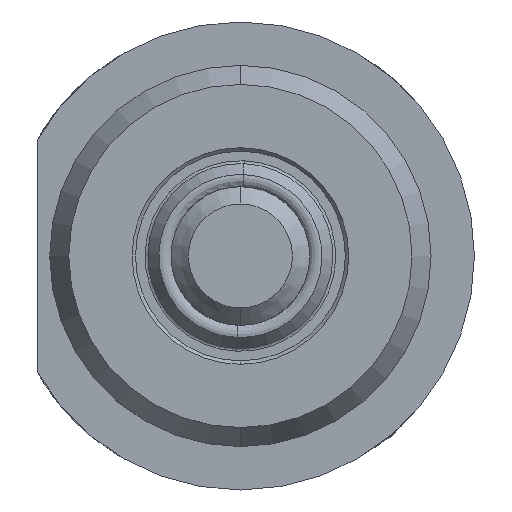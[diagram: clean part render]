
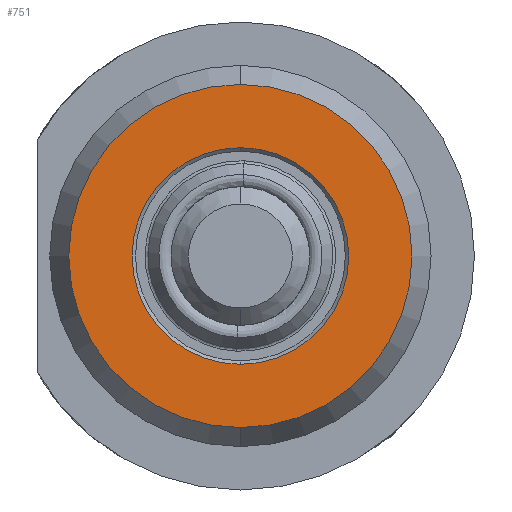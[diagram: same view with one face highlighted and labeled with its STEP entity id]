
A CAD part, left-side view. The second image highlights one B-rep face of the part: STEP entity #751.
In plain terms, the highlighted planar face has unit normal (-1, 0, 0).
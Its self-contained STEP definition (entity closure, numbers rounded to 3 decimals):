
#140 = AXIS2_PLACEMENT_3D ( 'NONE', #5105, #5110, #5111 ) ;
#751 = ADVANCED_FACE ( 'NONE', ( #4489, #4485 ), #5108, .T. ) ;
#1507 = EDGE_CURVE ( 'NONE', #5016, #5012, #6940, .T. ) ;
#1515 = EDGE_CURVE ( 'NONE', #5022, #5019, #6956, .T. ) ;
#1532 = EDGE_CURVE ( 'NONE', #5019, #5022, #6979, .T. ) ;
#1533 = EDGE_CURVE ( 'NONE', #5012, #5016, #6980, .T. ) ;
#2226 = ORIENTED_EDGE ( 'NONE', *, *, #1515, .T. ) ;
#2227 = ORIENTED_EDGE ( 'NONE', *, *, #1532, .T. ) ;
#2228 = ORIENTED_EDGE ( 'NONE', *, *, #1507, .F. ) ;
#2229 = ORIENTED_EDGE ( 'NONE', *, *, #1533, .F. ) ;
#2856 = CARTESIAN_POINT ( 'NONE',  ( 0., 0., 9.9 ) ) ;
#2860 = CARTESIAN_POINT ( 'NONE',  ( 0., 0., -9.9 ) ) ;
#2863 = CARTESIAN_POINT ( 'NONE',  ( 0., 0., -6.25 ) ) ;
#2866 = CARTESIAN_POINT ( 'NONE',  ( 0., 0., 6.25 ) ) ;
#3890 = AXIS2_PLACEMENT_3D ( 'NONE', #5950, #5951, #5952 ) ;
#3893 = AXIS2_PLACEMENT_3D ( 'NONE', #5969, #5970, #5971 ) ;
#3907 = AXIS2_PLACEMENT_3D ( 'NONE', #6015, #6016, #6017 ) ;
#3908 = AXIS2_PLACEMENT_3D ( 'NONE', #6018, #6019, #6020 ) ;
#4485 = FACE_OUTER_BOUND ( 'NONE', #7813, .T. ) ;
#4489 = FACE_BOUND ( 'NONE', #7811, .T. ) ;
#5012 = VERTEX_POINT ( 'NONE', #2856 ) ;
#5016 = VERTEX_POINT ( 'NONE', #2860 ) ;
#5019 = VERTEX_POINT ( 'NONE', #2863 ) ;
#5022 = VERTEX_POINT ( 'NONE', #2866 ) ;
#5105 = CARTESIAN_POINT ( 'NONE',  ( 0., 0., 0. ) ) ;
#5108 = PLANE ( 'NONE',  #140 ) ;
#5110 = DIRECTION ( 'NONE',  ( -1., 0., 0. ) ) ;
#5111 = DIRECTION ( 'NONE',  ( 0., 0., 1. ) ) ;
#5950 = CARTESIAN_POINT ( 'NONE',  ( 0., 0., 0. ) ) ;
#5951 = DIRECTION ( 'NONE',  ( 1., 0., 0. ) ) ;
#5952 = DIRECTION ( 'NONE',  ( 0., 0., -1. ) ) ;
#5969 = CARTESIAN_POINT ( 'NONE',  ( 0., 0., 0. ) ) ;
#5970 = DIRECTION ( 'NONE',  ( 1., 0., 0. ) ) ;
#5971 = DIRECTION ( 'NONE',  ( 0., 0., 1. ) ) ;
#6015 = CARTESIAN_POINT ( 'NONE',  ( 0., 0., 0. ) ) ;
#6016 = DIRECTION ( 'NONE',  ( 1., 0., 0. ) ) ;
#6017 = DIRECTION ( 'NONE',  ( 0., 0., 1. ) ) ;
#6018 = CARTESIAN_POINT ( 'NONE',  ( 0., 0., 0. ) ) ;
#6019 = DIRECTION ( 'NONE',  ( 1., 0., 0. ) ) ;
#6020 = DIRECTION ( 'NONE',  ( 0., 0., -1. ) ) ;
#6940 = CIRCLE ( 'NONE', #3890, 9.9 ) ;
#6956 = CIRCLE ( 'NONE', #3893, 6.25 ) ;
#6979 = CIRCLE ( 'NONE', #3907, 6.25 ) ;
#6980 = CIRCLE ( 'NONE', #3908, 9.9 ) ;
#7811 = EDGE_LOOP ( 'NONE', ( #2226, #2227 ) ) ;
#7813 = EDGE_LOOP ( 'NONE', ( #2228, #2229 ) ) ;
